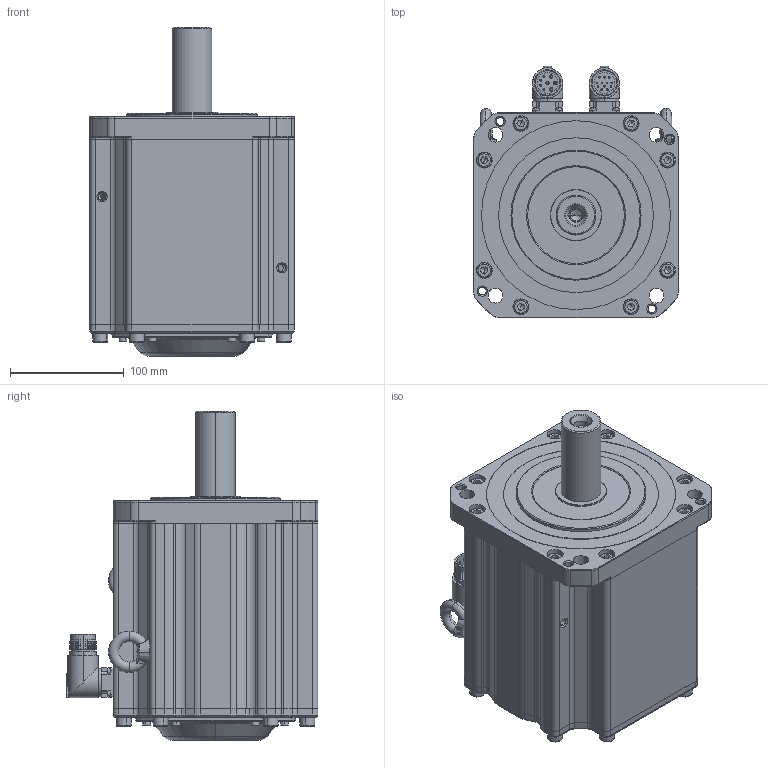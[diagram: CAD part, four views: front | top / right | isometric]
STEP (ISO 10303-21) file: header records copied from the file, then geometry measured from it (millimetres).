
FILE_DESCRIPTION (( 'STEP AP203' ), '1' );
FILE_NAME ('MC20-180-3M20-N502-0¡õPL-NNNN.STEP', '2025-07-30T13:19:53', ( '' ), ( '' ), 'SwSTEP 2.0', 'SolidWorks 2014', '' );
FILE_SCHEMA (( 'CONFIG_CONTROL_DESIGN' ));
Length unit declared in the file: millimetre
Products named in the file (1): MC20-180-3M20-N502-0¡õPL-NNNN
Bounding box: 180 x 221.35 x 289.95 mm (x, y, z)
Volume: 7578147.1 mm3; surface area: 493542.5 mm2
Topology: 40 solids, 42 shells, 2194 faces, 5079 edges, 3029 vertices
Faces by surface type: plane 879, cylinder 578, cone 482, torus 208, bspline 47
Entity records: 64157 total; most frequent: CARTESIAN_POINT 14092, DIRECTION 10995, ORIENTED_EDGE 9938, EDGE_CURVE 4969, AXIS2_PLACEMENT_3D 4263, VERTEX_POINT 3029, LINE 2469, VECTOR 2469
